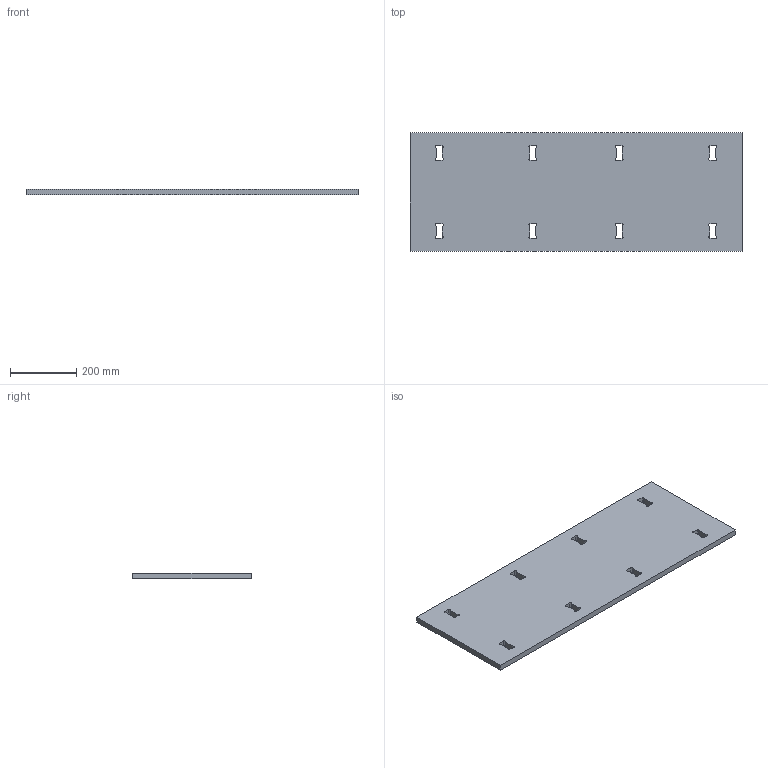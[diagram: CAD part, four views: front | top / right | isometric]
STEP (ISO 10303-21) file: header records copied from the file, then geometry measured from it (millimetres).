
FILE_DESCRIPTION (( 'STEP AP214' ), '1' );
FILE_NAME ('grande-plaque-rectangulaire-desus.STEP', '2018-04-07T06:02:33', ( '' ), ( '' ), 'SwSTEP 2.0', 'SolidWorks 2017', '' );
FILE_SCHEMA (( 'AUTOMOTIVE_DESIGN' ));
Length unit declared in the file: millimetre
Products named in the file (1): grande-plaque-rectangulaire-desus
Bounding box: 1000 x 355.6 x 18 mm (x, y, z)
Volume: 6276360.8 mm3; surface area: 765451.6 mm2
Topology: 1 solids, 1 shells, 118 faces, 348 edges, 232 vertices
Faces by surface type: plane 70, cylinder 48
Entity records: 4014 total; most frequent: CARTESIAN_POINT 699, ORIENTED_EDGE 696, DIRECTION 682, EDGE_CURVE 348, LINE 252, VECTOR 252, VERTEX_POINT 232, AXIS2_PLACEMENT_3D 215
